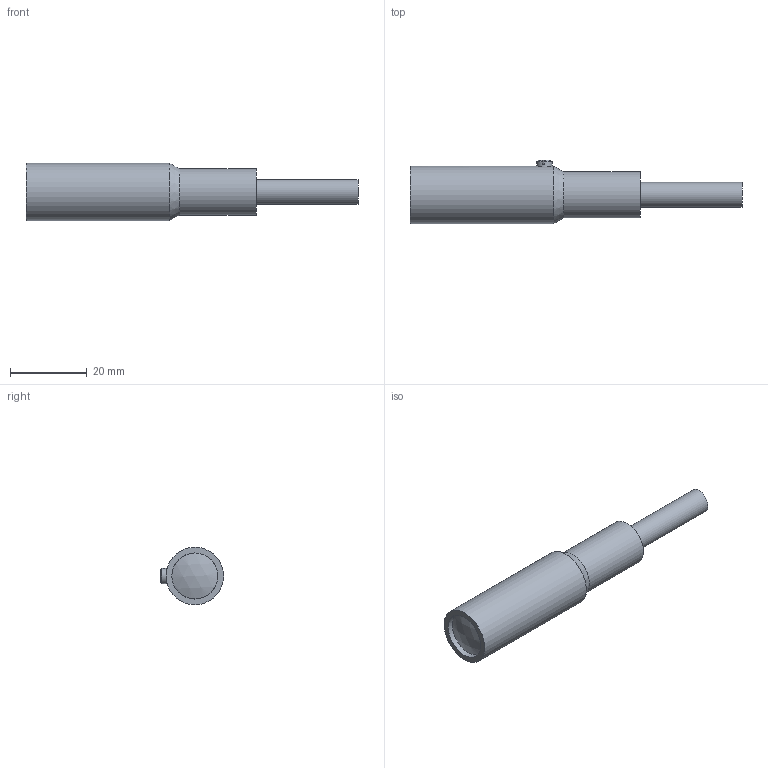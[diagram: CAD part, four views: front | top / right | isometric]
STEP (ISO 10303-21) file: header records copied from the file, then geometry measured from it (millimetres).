
FILE_DESCRIPTION((''),'2;1');
FILE_NAME('Q:\Konstruktion\E-Mail-Zeichnungen\STEP\KL-8.stp','2010-10-21T16:09:38',('GuentherB'),(''),'Autodesk Inventor 2011','Autodesk Inventor 2011','');
FILE_SCHEMA(('AUTOMOTIVE_DESIGN { 1 0 10303 214 1 1 1 1 }'));
Length unit declared in the file: millimetre
Products named in the file (1): Bauteil1
Bounding box: 86.5 x 16.5 x 15 mm (x, y, z)
Volume: 9877 mm3; surface area: 3764 mm2
Topology: 1 solids, 1 shells, 20 faces, 44 edges, 29 vertices
Faces by surface type: plane 9, cylinder 6, cone 4, sphere 1
Full cylindrical faces by diameter (mm): 4 x1, 6.5 x1, 10 x1, 12 x2, 15 x1
Entity records: 568 total; most frequent: CARTESIAN_POINT 116, DIRECTION 84, ORIENTED_EDGE 60, AXIS2_PLACEMENT_3D 38, EDGE_LOOP 32, EDGE_CURVE 30, VERTEX_POINT 24, STYLED_ITEM 21
